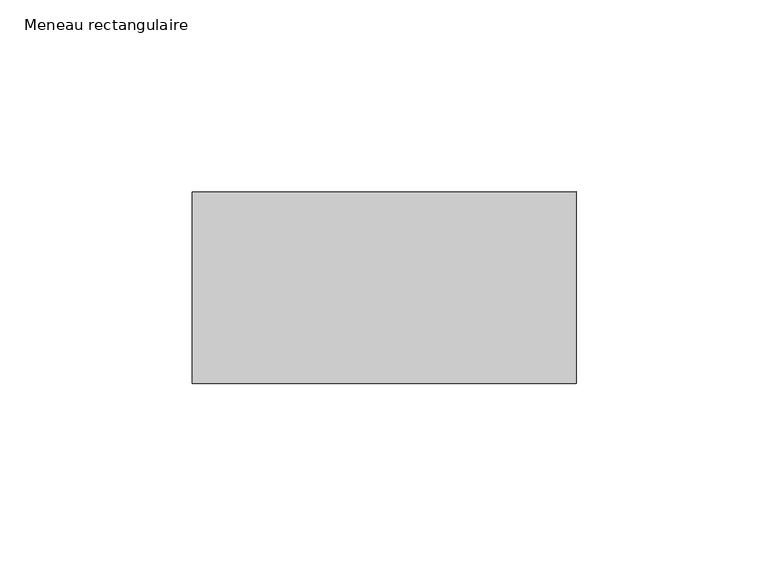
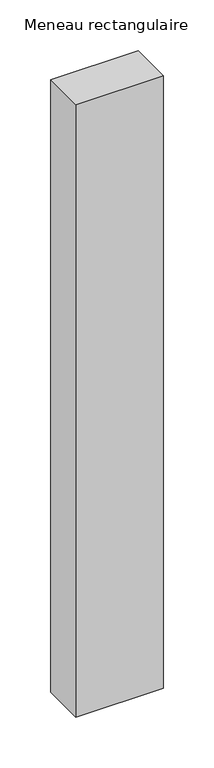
"""IFC4 building model written with IfcOpenShell, lengths in millimetres: member geometry, Meneau rectangulaire : 10x5cm aluminium laqué gris."""

from ifc_helpers import new_model, si_unit, frame, origin, place, context, project, spatial, polyline, outline, extrude, source, transform, mapped, element, save


def meneau_rectangulaire_7ed9d279(model_context):
    return source(origin(), model_context, "Body", "SweptSolid", [
        extrude(outline(polyline([(0.0, 25.0), (0.0, -25.0), (-100.0, -25.0), (-100.0, 25.0), (0.0, 25.0)])), frame((0.0, 0.0, -740.0), z_axis=(0.0, 0.0, 1.0), x_axis=(1.0, 0.0, 0.0)), (0.0, 0.0, 1.0), 740.0),
    ])


if __name__ == "__main__":
    model = new_model("IFC4")
    model_context = context("Model", 3, world=origin())
    ifc_project = project(units=[si_unit("LENGTHUNIT", "METRE", prefix="MILLI")], contexts=[model_context])
    site = spatial("IfcSite", under=ifc_project)
    building = spatial("IfcBuilding", under=site)
    placement = place(None, origin())
    meneau_rectangulaire_shape = meneau_rectangulaire_7ed9d279(model_context)
    element("IfcMember", 1, ObjectType="Meneau rectangulaire : 10x5cm aluminium laqué gris", at=placement, inside=building, context=model_context, shape_type="MappedRepresentation", body=[
        mapped(meneau_rectangulaire_shape, transform((0.0, 0.0, 0.0), x_axis=(1.0, 0.0, 0.0), y_axis=(0.0, 1.0, 0.0), z_axis=(0.0, 0.0, 1.0))),
    ])
    save(model, "model.ifc")
